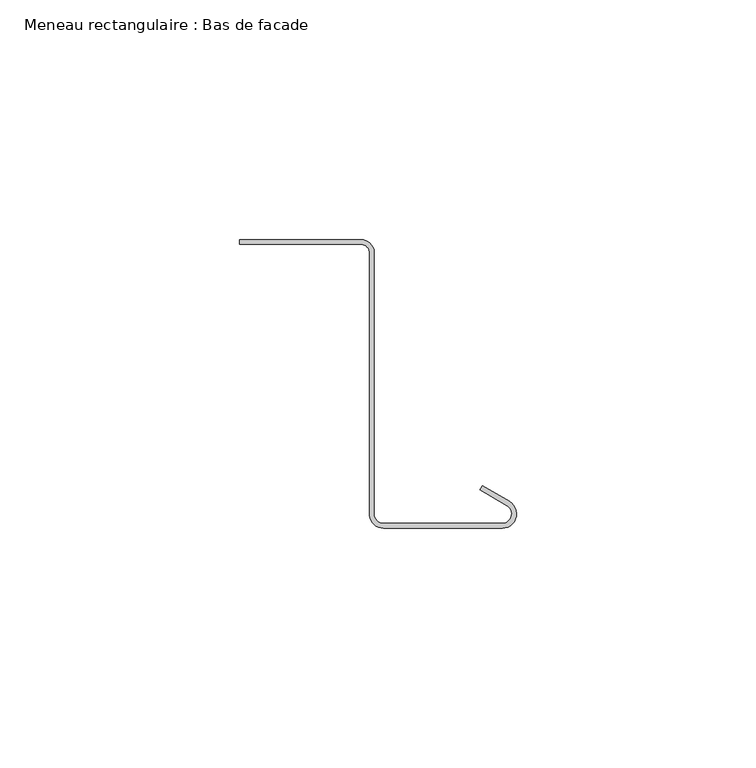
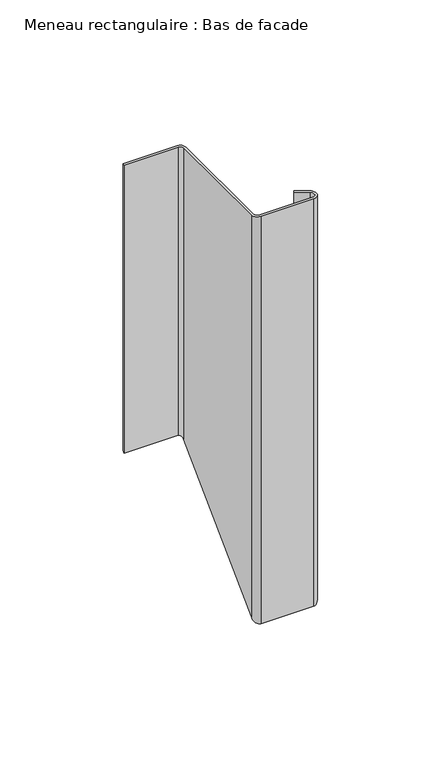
"""IFC4 building model written with IfcOpenShell, lengths in millimetres: member geometry, Meneau rectangulaire : Bas de facade."""

from ifc_helpers import new_model, si_unit, frame, origin, place, context, project, spatial, polyline, circle_curve, ellipse_curve, source, transform, mapped, element, save
from ifc_brep_helpers import plane_surface, cylinder_surface, revolved_surface, advanced_brep


def meneau_rectangulaire_bas_de_facade_21b43587(model_context):
    return source(origin(), model_context, "Body", "AdvancedBrep", [
        advanced_brep(
        [(-32.4584179, 2.9588923, 0.0), (-57.8548383, 2.9588923, 0.0), (-57.8548383, 1.9588923, 0.0), (-32.4584179, 1.9588923, 0.0), (-30.7239521, 0.4415475, 0.0), (-30.7239521, -54.522067, 0.0), (-27.735368, -57.2605998, 0.0), (-3.0, -57.2605998, 0.0), (-1.5, -51.6625235, 0.0), (-7.1638061, -48.3925235, 0.0), (-7.6638061, -49.258549, 0.0), (-2.0, -52.528549, 0.0), (-3.0, -56.2605998, 0.0), (-27.735368, -56.2605998, 0.0), (-29.7143802, -54.5495817, 0.0), (-29.7143802, 0.3898824, 0.0), (-32.4584179, 2.9588923, -142.0411077), (-57.8548383, 2.9588923, -142.0411077), (-57.8548383, 1.9588923, -143.0411077), (-32.4584179, 1.9588923, -143.0411077), (-30.7239521, 0.4415475, -144.5584525), (-30.7239521, -54.522067, -199.522067), (-27.735368, -57.2605998, -202.2605998), (-3.0, -57.2605998, -202.2605998), (-1.5, -51.6625235, -196.6625235), (-7.1638061, -48.3925235, -193.3925235), (-7.6638061, -49.258549, -194.258549), (-2.0, -52.528549, -197.528549), (-3.0, -56.2605998, -201.2605998), (-27.735368, -56.2605998, -201.2605998), (-29.7143802, -54.5495817, -199.5495817), (-29.7143802, 0.3898824, -144.6101176)],
        [
            (0, 1),
            (1, 2),
            (2, 3),
            (3, 4, circle_curve(frame((-32.4584179, 0.2088923, 0.0), z_axis=(0.0, 0.0, -1.0), x_axis=(0.0, 1.0, 0.0)), 1.75)),
            (4, 5),
            (5, 6, circle_curve(frame((-27.735368, -54.2605998, 0.0), z_axis=(0.0, 0.0, 1.0), x_axis=(-0.9961946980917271, -0.08715574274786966, 0.0)), 3.0)),
            (6, 7),
            (7, 8, circle_curve(frame((-3.0, -54.2605998, 0.0), z_axis=(0.0, 0.0, 1.0), x_axis=(0.0, -1.0, 0.0)), 3.0)),
            (8, 9),
            (9, 10),
            (10, 11),
            (11, 12, circle_curve(frame((-3.0, -54.2605998, 0.0), z_axis=(0.0, 0.0, -1.0), x_axis=(0.0, -1.0, 0.0)), 2.0)),
            (12, 13),
            (13, 14, circle_curve(frame((-27.735368, -54.2605998, 0.0), z_axis=(0.0, 0.0, -1.0), x_axis=(-0.9961946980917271, -0.08715574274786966, 0.0)), 2.0)),
            (14, 15),
            (15, 0, circle_curve(frame((-32.4584179, 0.2088923, 0.0), z_axis=(0.0, 0.0, 1.0), x_axis=(0.0, 1.0, 0.0)), 2.75)),
            (0, 16),
            (16, 17),
            (17, 1),
            (17, 18),
            (18, 2),
            (18, 19),
            (19, 3),
            (19, 20, ellipse_curve(frame((-32.4584179, 0.2088923, -144.7911077), z_axis=(0.0, 0.7071067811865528, -0.7071067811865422), x_axis=(0.0, -0.7071067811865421, -0.7071067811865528)), 2.4748737, 1.75)),
            (20, 4),
            (20, 21),
            (21, 5),
            (21, 22, ellipse_curve(frame((-27.735368, -54.2605998, -199.2605998), z_axis=(0.0, -0.7071067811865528, 0.7071067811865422), x_axis=(0.0, 0.7071067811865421, 0.7071067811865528)), 4.2426407, 3.0)),
            (22, 6),
            (22, 23),
            (23, 7),
            (23, 24, ellipse_curve(frame((-3.0, -54.2605998, -199.2605998), z_axis=(0.0, -0.7071067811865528, 0.7071067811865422), x_axis=(0.0, 0.7071067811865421, 0.7071067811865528)), 4.2426407, 3.0)),
            (24, 8),
            (24, 25),
            (25, 9),
            (25, 26),
            (26, 10),
            (26, 27),
            (27, 11),
            (27, 28, ellipse_curve(frame((-3.0, -54.2605998, -199.2605998), z_axis=(0.0, 0.7071067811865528, -0.7071067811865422), x_axis=(0.0, -0.7071067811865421, -0.7071067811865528)), 2.8284271, 2.0)),
            (28, 12),
            (28, 29),
            (29, 13),
            (29, 30, ellipse_curve(frame((-27.735368, -54.2605998, -199.2605998), z_axis=(0.0, 0.7071067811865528, -0.7071067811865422), x_axis=(0.0, -0.7071067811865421, -0.7071067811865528)), 2.8284271, 2.0)),
            (30, 14),
            (30, 31),
            (31, 15),
            (31, 16, ellipse_curve(frame((-32.4584179, 0.2088923, -144.7911077), z_axis=(0.0, -0.7071067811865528, 0.7071067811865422), x_axis=(0.0, 0.7071067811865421, 0.7071067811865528)), 3.8890873, 2.75)),
        ],
        [
            plane_surface(frame((0.0, -63.8351035, 0.0), z_axis=(0.0, 0.0, 1.0), x_axis=(-1.0, 0.0, 0.0))),
            plane_surface(frame((-32.4584179, 2.9588923, 0.0), z_axis=(0.0, 1.0, 0.0), x_axis=(0.0, 0.0, -1.0))),
            plane_surface(frame((-57.8548383, 2.9588923, 0.0), z_axis=(-1.0, 0.0, 0.0), x_axis=(0.0, 0.0, -1.0))),
            plane_surface(frame((-57.8548383, 1.9588923, 0.0), z_axis=(0.0, -1.0, 0.0), x_axis=(0.0, 0.0, -1.0))),
            revolved_surface(polyline([(-32.4584179, 1.9588923, -146.54110767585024), (-32.4584179, 1.9588923, 0.0)]), (-32.4584179, 0.2088923, 0.0), (0.0, 0.0, -1.0)),
            plane_surface(frame((-30.7239521, 0.4415475, 0.0), z_axis=(-1.0, 0.0, 0.0), x_axis=(0.0, 0.0, -1.0))),
            cylinder_surface(frame((-27.735368, -54.2605998, 0.0), z_axis=(0.0, 0.0, 1.0000000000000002), x_axis=(-0.9961946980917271, -0.08715574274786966, 0.0)), 3.0),
            plane_surface(frame((-27.735368, -57.2605998, 0.0), z_axis=(0.0, -1.0, 0.0), x_axis=(0.0, 0.0, -1.0))),
            cylinder_surface(frame((-3.0, -54.2605998, 0.0), z_axis=(0.0, 0.0, 1.0), x_axis=(0.0, -1.0, 0.0)), 3.0),
            plane_surface(frame((-1.5, -51.6625235, 0.0), z_axis=(0.5000000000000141, 0.8660254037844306, 0.0), x_axis=(0.0, 0.0, -1.0))),
            plane_surface(frame((-7.1638061, -48.3925235, 0.0), z_axis=(-0.8660254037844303, 0.5000000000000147, 0.0), x_axis=(0.0, 0.0, -1.0))),
            plane_surface(frame((-7.6638061, -49.258549, 0.0), z_axis=(-0.500000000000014, -0.8660254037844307, 0.0), x_axis=(0.0, 0.0, -1.0))),
            revolved_surface(polyline([(-3.0, -56.2605998, -201.2605998), (-3.0, -56.2605998, 0.0)]), (-3.0, -54.2605998, 0.0), (0.0, 0.0, -1.0)),
            plane_surface(frame((-3.0, -56.2605998, 0.0), z_axis=(0.0, 1.0, 0.0), x_axis=(0.0, 0.0, -1.0))),
            revolved_surface(polyline([(-29.727757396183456, -54.434911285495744, -201.2605998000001), (-29.727757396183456, -54.434911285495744, 0.0)]), (-27.735368, -54.2605998, 0.0), (0.0, 0.0, -1.0000000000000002)),
            plane_surface(frame((-29.7143802, -54.5495817, 0.0), z_axis=(1.0, 0.0, 0.0), x_axis=(0.0, 0.0, -1.0))),
            cylinder_surface(frame((-32.4584179, 0.2088923, 0.0), z_axis=(0.0, 0.0, 1.0), x_axis=(0.0, 1.0, 0.0)), 2.75),
            plane_surface(frame((-304.8, 0.0, -145.0), z_axis=(0.0, 0.7071067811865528, -0.7071067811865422), x_axis=(0.0, 0.7071067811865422, 0.7071067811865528))),
        ],
        [
            (0, [[1, 2, 3, 4, 5, 6, 7, 8, 9, 10, 11, 12, 13, 14, 15, 16]]),
            (1, [[-1, 17, 18, 19]]),
            (2, [[-2, -19, 20, 21]]),
            (3, [[-3, -21, 22, 23]]),
            (4, [[-4, -23, 24, 25]]),
            (5, [[-5, -25, 26, 27]]),
            (6, [[-6, -27, 28, 29]]),
            (7, [[-7, -29, 30, 31]]),
            (8, [[-8, -31, 32, 33]]),
            (9, [[-9, -33, 34, 35]]),
            (10, [[-10, -35, 36, 37]]),
            (11, [[-11, -37, 38, 39]]),
            (12, [[-12, -39, 40, 41]]),
            (13, [[-13, -41, 42, 43]]),
            (14, [[-14, -43, 44, 45]]),
            (15, [[-15, -45, 46, 47]]),
            (16, [[-16, -47, 48, -17]]),
            (17, [[-48, -46, -44, -42, -40, -38, -36, -34, -32, -30, -28, -26, -24, -22, -20, -18]]),
        ],
    ),
    ])


if __name__ == "__main__":
    model = new_model("IFC4")
    model_context = context("Model", 3, world=origin())
    ifc_project = project(units=[si_unit("LENGTHUNIT", "METRE", prefix="MILLI")], contexts=[model_context])
    site = spatial("IfcSite", under=ifc_project)
    building = spatial("IfcBuilding", under=site)
    placement = place(None, origin())
    meneau_rectangulaire_bas_de_facade_shape = meneau_rectangulaire_bas_de_facade_21b43587(model_context)
    element("IfcMember", 1, ObjectType="Meneau rectangulaire : Bas de facade", at=placement, inside=building, context=model_context, shape_type="MappedRepresentation", body=[
        mapped(meneau_rectangulaire_bas_de_facade_shape, transform((0.0, 0.0, 0.0), x_axis=(1.0, 0.0, 0.0), y_axis=(0.0, 1.0, 0.0), z_axis=(0.0, 0.0, 1.0))),
    ])
    save(model, "model.ifc")
